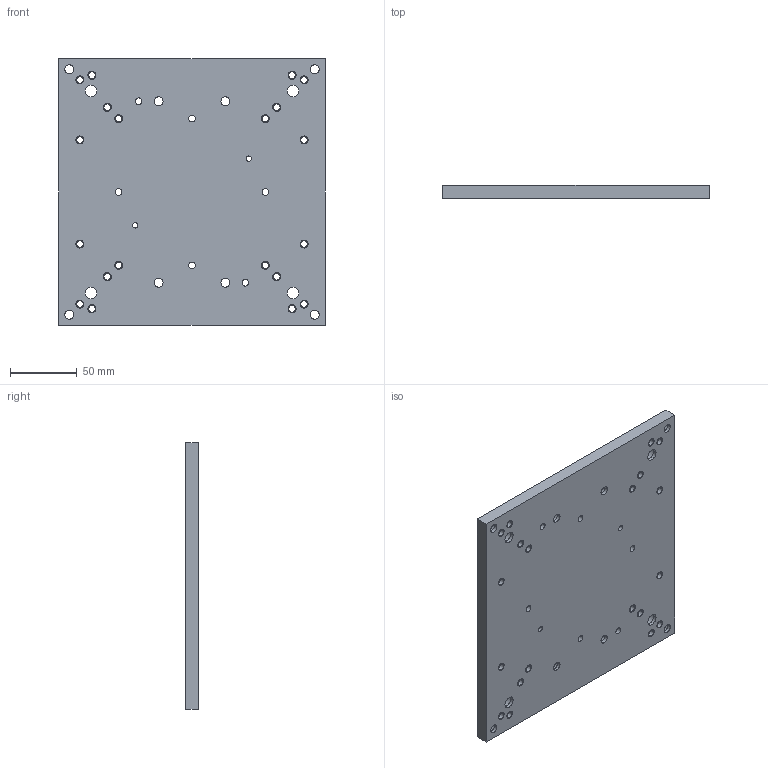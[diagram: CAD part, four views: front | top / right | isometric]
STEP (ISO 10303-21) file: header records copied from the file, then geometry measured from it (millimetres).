
FILE_DESCRIPTION((''),'2;1');
FILE_NAME('ZP200-ADAPTER-PLATE','2002-07-22T',('FKrakosh'),(''),'PRO/ENGINEER BY PARAMETRIC TECHNOLOGY CORPORATION, 2000420','PRO/ENGINEER BY PARAMETRIC TECHNOLOGY CORPORATION, 2000420','');
FILE_SCHEMA(('CONFIG_CONTROL_DESIGN'));
Length unit declared in the file: millimetre
Products named in the file (1): ZP200-ADAPTER-PLATE
Bounding box: 200 x 9.53 x 200 mm (x, y, z)
Volume: 365699.2 mm3; surface area: 96997.4 mm2
Topology: 1 solids, 21 shells, 162 faces, 444 edges, 296 vertices
Faces by surface type: cylinder 144, plane 18
Entity records: 5463 total; most frequent: DIRECTION 1058, CARTESIAN_POINT 903, ORIENTED_EDGE 808, AXIS2_PLACEMENT_3D 451, EDGE_CURVE 444, VERTEX_POINT 296, CIRCLE 288, EDGE_LOOP 254
